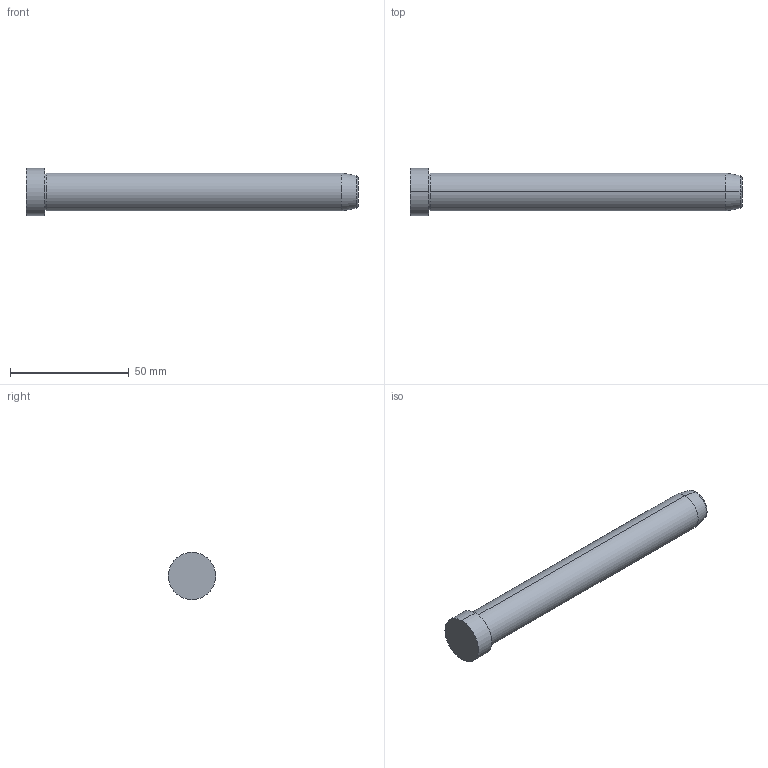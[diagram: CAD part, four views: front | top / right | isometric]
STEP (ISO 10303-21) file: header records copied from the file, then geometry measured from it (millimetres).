
FILE_DESCRIPTION( ( 'STEP AP203' ), '1' );
FILE_NAME( 'D:/Delta 3 D/D01D/16/D01D - 16x140.step', '2003-01-02T23:17:45', ( ' ' ), ( ' ' ), 'XStep 1.0', ' ', ' ' );
FILE_SCHEMA( ( 'CONFIG_CONTROL_DESIGN' ) );
Length unit declared in the file: metre
Products named in the file (1): 1
Bounding box: 140 x 20 x 20 mm (x, y, z)
Volume: 28835.4 mm3; surface area: 7698.3 mm2
Topology: 1 solids, 1 shells, 14 faces, 26 edges, 16 vertices
Faces by surface type: revolution 8, bspline 6
Entity records: 437 total; most frequent: CARTESIAN_POINT 121, ORIENTED_EDGE 52, DIRECTION 50, EDGE_CURVE 26, AXIS2_PLACEMENT_3D 17, EDGE_LOOP 16, VERTEX_POINT 16, CIRCLE 16
